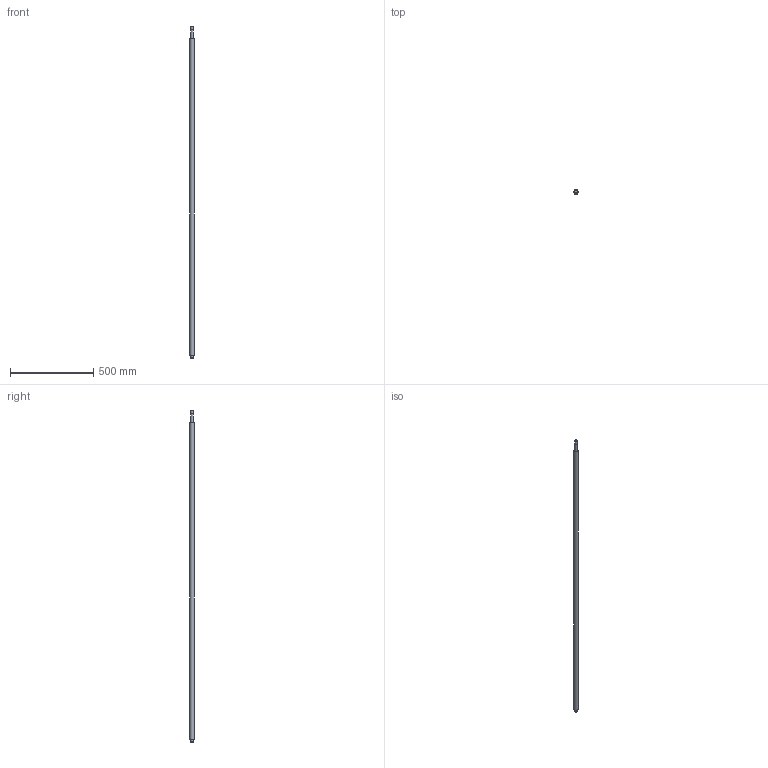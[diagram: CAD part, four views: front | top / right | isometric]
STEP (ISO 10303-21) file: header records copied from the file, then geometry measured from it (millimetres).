
FILE_DESCRIPTION(/* description */ (''),/* implementation_level */ '2;1');
FILE_NAME(/* name */ 'C:\Users\David Dillkötter\ownCloud\Kamp und Kötter\Artikel\_CAD-Dateien\CAD-Dateien-Shop\CAD-Dateien\Kugelumlaufspindel\2510\KUS2510x2000.stp',/* time_stamp */ '2020-09-03T09:45:39+02:00',/* author */ ('David Dillkötter'),/* organization */ (''),/* preprocessor_version */ 'ST-DEVELOPER v18.1',/* originating_system */ 'Autodesk Inventor 2021',/* authorisation */ '');
FILE_SCHEMA (('AUTOMOTIVE_DESIGN { 1 0 10303 214 3 1 1 }'));
Length unit declared in the file: millimetre
Products named in the file (1): KUS2510_Gewindespindel
Bounding box: 25 x 25 x 2000 mm (x, y, z)
Volume: 956284.8 mm3; surface area: 155616 mm2
Topology: 1 solids, 1 shells, 17 faces, 30 edges, 20 vertices
Faces by surface type: plane 7, cylinder 6, cone 4
Full cylindrical faces by diameter (mm): 15 x1, 16.2 x1, 17 x3, 25 x1
Entity records: 465 total; most frequent: DIRECTION 86, CARTESIAN_POINT 68, ORIENTED_EDGE 60, AXIS2_PLACEMENT_3D 38, EDGE_CURVE 30, EDGE_LOOP 22, CIRCLE 20, VERTEX_POINT 20
